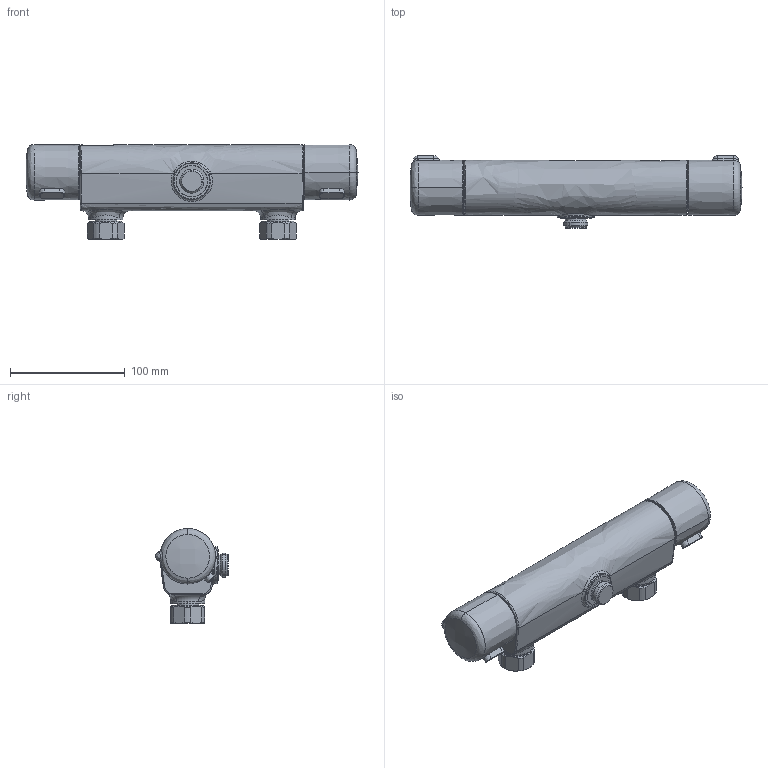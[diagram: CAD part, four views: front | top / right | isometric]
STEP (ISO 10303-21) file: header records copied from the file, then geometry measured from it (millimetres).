
FILE_DESCRIPTION (( 'STEP AP203' ), '1' );
FILE_NAME ('7460GL(2022).STEP', '2022-03-03T11:41:45', ( '' ), ( '' ), 'SwSTEP 2.0', 'SolidWorks 2016', '' );
FILE_SCHEMA (( 'CONFIG_CONTROL_DESIGN' ));
Length unit declared in the file: millimetre
Products named in the file (1): 7460GL(2022)
Bounding box: 289.19 x 63.4 x 82.67 mm (x, y, z)
Volume: 664307.9 mm3; surface area: 65412.1 mm2
Topology: 1 solids, 1 shells, 223 faces, 516 edges, 315 vertices
Faces by surface type: bspline 60, cylinder 51, plane 46, cone 44, torus 16, sphere 6
Entity records: 11460 total; most frequent: CARTESIAN_POINT 6751, ORIENTED_EDGE 1028, DIRECTION 887, EDGE_CURVE 514, AXIS2_PLACEMENT_3D 387, VERTEX_POINT 315, EDGE_LOOP 245, FACE_OUTER_BOUND 223
